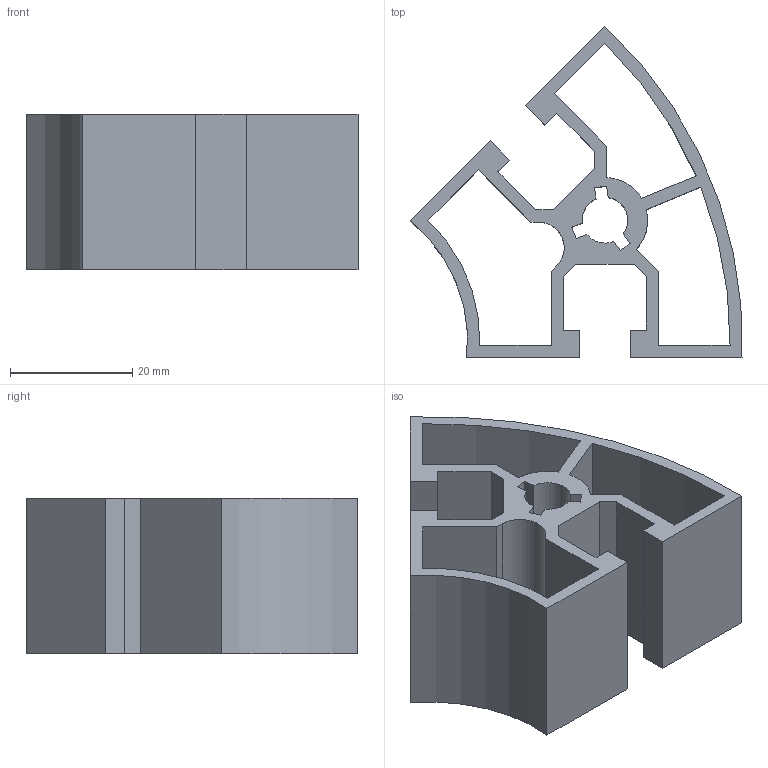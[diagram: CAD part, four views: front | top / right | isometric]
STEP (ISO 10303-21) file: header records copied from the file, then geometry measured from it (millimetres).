
FILE_DESCRIPTION((''),'2;1');
FILE_NAME('C:\Documents and Settings\Administrator\My Documents\Andys Backup Data\STEP LIBRARIES\MINITEC STEP LIBRARIES\ALUMINUM PROFILES\20.1095 45 R 45.stp','2009-01-14T16:00:21',('Administrator'),(''),'Autodesk Inventor 2009','Autodesk Inventor 2009','');
FILE_SCHEMA(('AUTOMOTIVE_DESIGN { 1 0 10303 214 1 1 1 1 }'));
Length unit declared in the file: inch
Products named in the file (1): 20.1095 45 R 45
Bounding box: 54.38 x 54.28 x 25.4 mm (x, y, z)
Volume: 15174.2 mm3; surface area: 14306.5 mm2
Topology: 1 solids, 1 shells, 58 faces, 168 edges, 112 vertices
Faces by surface type: plane 47, cylinder 11
Entity records: 1938 total; most frequent: CARTESIAN_POINT 339, ORIENTED_EDGE 336, DIRECTION 308, EDGE_CURVE 168, VECTOR 146, LINE 146, VERTEX_POINT 112, AXIS2_PLACEMENT_3D 81
